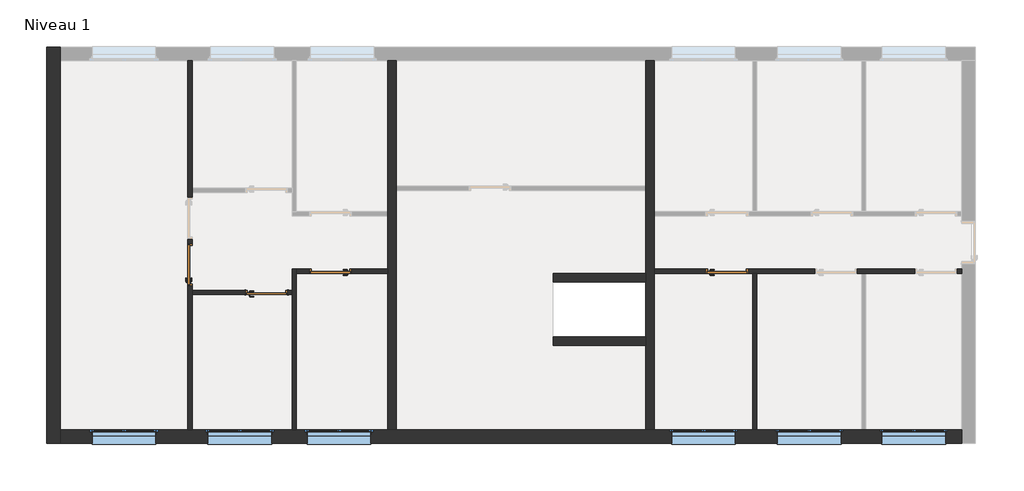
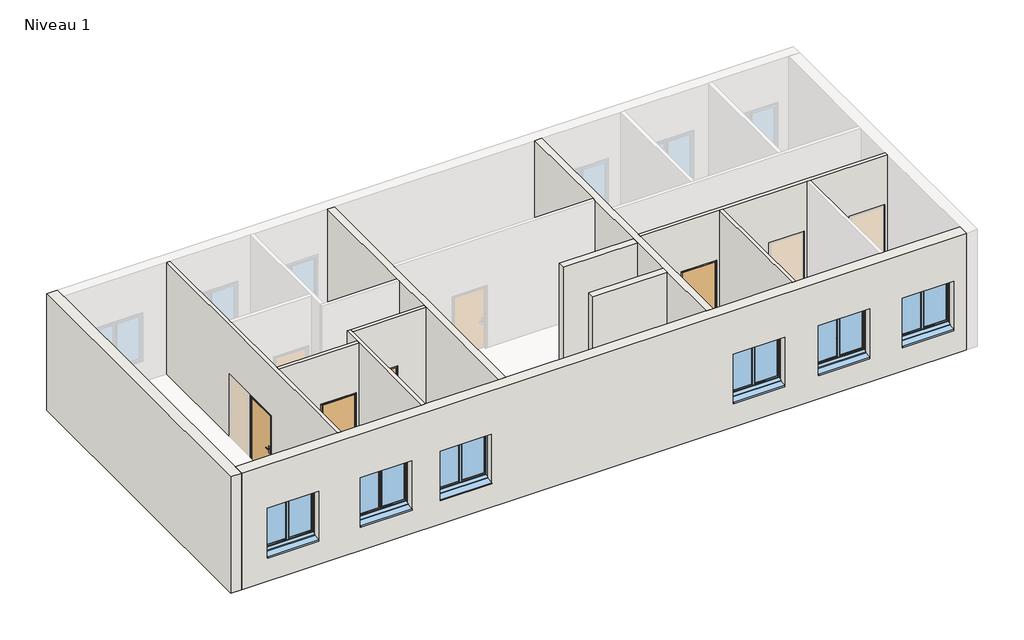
# One storey, part 1 of 2: 12 walls, 6 windows, 4 doors.
"""IFC4 building model written with IfcOpenShell, lengths in millimetres."""

from ifc_helpers import new_model, si_unit, frame, origin, place, context, project, spatial, polyline, outline, extrude, faceted_brep, transform, mapped, element, save
from components import int_simple_pp_0_93m_x_2_04m_4f2bf630, int_simple_pp_0_93m_x_2_04m_68d1b237, window_4dd6e4df

model = new_model("IFC4")

# Units and contexts
model_context = context("Model", 3, world=origin())
ifc_project = project(units=[si_unit("LENGTHUNIT", "METRE", prefix="MILLI")], contexts=[model_context])

# Site, building, storey
site = spatial("IfcSite", under=ifc_project)
building = spatial("IfcBuilding", under=site)
storey = spatial("IfcBuildingStorey", under=building, Name="Niveau 1", Elevation=3600.0)

# Doors
placement = place(None, origin())
int_simple_pp_0_93m_x_2_04m_shape = int_simple_pp_0_93m_x_2_04m_4f2bf630(model_context)
element("IfcDoor", 1, ObjectType="Int. Simple : PP (0.93m x 2.04m)", at=placement, inside=storey, context=model_context, shape_type="MappedRepresentation", body=[
    mapped(int_simple_pp_0_93m_x_2_04m_shape, transform((1686.759299, -1075.3060551, 3600.0), x_axis=(1.0, 0.0, 0.0), y_axis=(0.0, 1.0, 0.0), z_axis=(0.0, 0.0, 1.0))),
])
element("IfcDoor", 2, ObjectType="Int. Simple : PP (0.93m x 2.04m)", at=placement, inside=storey, context=model_context, shape_type="MappedRepresentation", body=[
    mapped(int_simple_pp_0_93m_x_2_04m_shape, transform((-9133.240701, -1575.3060551, 3600.0), x_axis=(1.0, 0.0, 0.0), y_axis=(0.0, 1.0, 0.0), z_axis=(0.0, 0.0, 1.0))),
])
int_simple_pp_0_93m_x_2_04m_2_shape = int_simple_pp_0_93m_x_2_04m_68d1b237(model_context)
element("IfcDoor", 3, ObjectType="Int. Simple : PP (0.93m x 2.04m)", at=placement, inside=storey, context=model_context, shape_type="MappedRepresentation", body=[
    mapped(int_simple_pp_0_93m_x_2_04m_2_shape, transform((-7703.240701, -1075.3060551, 3600.0), x_axis=(-1.0, 0.0, 0.0), y_axis=(0.0, -1.0, 0.0), z_axis=(0.0, 0.0, 1.0))),
])
element("IfcDoor", 4, ObjectType="Int. Simple : PP (0.93m x 2.04m)", at=placement, inside=storey, context=model_context, shape_type="MappedRepresentation", body=[
    mapped(int_simple_pp_0_93m_x_2_04m_2_shape, transform((-10968.240701, -890.3060551, 3600.0), x_axis=(0.0, 1.0, 0.0), y_axis=(-1.0, 0.0, 0.0), z_axis=(0.0, 0.0, 1.0))),
])

# Walls
element("IfcWall", 5, ObjectType="Int. plâtre 100 mm", at=placement, inside=storey, context=model_context, shape_type="Brep", body=[
    faceted_brep([(7161.759299, -1125.3060551, 7200.0), (4911.759299, -1125.3060551, 7200.0), (4811.759299, -1125.3060551, 7200.0), (2351.759299, -1125.3060551, 7200.0), (2251.759299, -1125.3060551, 7200.0), (-58.240701, -1125.3060551, 7200.0), (-58.240701, -1125.3060551, 3600.0), (1151.759299, -1125.3060551, 3600.0), (1151.759299, -1125.3060551, 5675.0), (2151.759299, -1125.3060551, 5675.0), (2151.759299, -1125.3060551, 3600.0), (2251.759299, -1125.3060551, 3600.0), (2351.759299, -1125.3060551, 3600.0), (3711.759299, -1125.3060551, 3600.0), (3711.759299, -1125.3060551, 5675.0), (4711.759299, -1125.3060551, 5675.0), (4711.759299, -1125.3060551, 3600.0), (4811.759299, -1125.3060551, 3600.0), (4911.759299, -1125.3060551, 3600.0), (6061.759299, -1125.3060551, 3600.0), (6061.759299, -1125.3060551, 5675.0), (7061.759299, -1125.3060551, 5675.0), (7061.759299, -1125.3060551, 3600.0), (7161.759299, -1125.3060551, 3600.0), (-58.240701, -1025.3060551, 7200.0), (7161.759299, -1025.3060551, 7200.0), (7161.759299, -1025.3060551, 3600.0), (7061.759299, -1025.3060551, 3600.0), (7061.759299, -1025.3060551, 5675.0), (6061.759299, -1025.3060551, 5675.0), (6061.759299, -1025.3060551, 3600.0), (4711.759299, -1025.3060551, 3600.0), (4711.759299, -1025.3060551, 5675.0), (3711.759299, -1025.3060551, 5675.0), (3711.759299, -1025.3060551, 3600.0), (2151.759299, -1025.3060551, 3600.0), (2151.759299, -1025.3060551, 5675.0), (1151.759299, -1025.3060551, 5675.0), (1151.759299, -1025.3060551, 3600.0), (-58.240701, -1025.3060551, 3600.0)], [[[0, 1, 2, 3, 4, 5, 6, 7, 8, 9, 10, 11, 12, 13, 14, 15, 16, 17, 18, 19, 20, 21, 22, 23]], [[24, 25, 26, 27, 28, 29, 30, 31, 32, 33, 34, 35, 36, 37, 38, 39]], [[6, 39, 38, 7]], [[26, 23, 22, 27]], [[10, 35, 34, 13, 12, 11]], [[16, 31, 30, 19, 18, 17]], [[5, 4, 3, 2, 1, 0, 25, 24]], [[0, 23, 26, 25]], [[6, 5, 24, 39]], [[9, 36, 35, 10]], [[36, 9, 8, 37]], [[37, 8, 7, 38]], [[15, 32, 31, 16]], [[32, 15, 14, 33]], [[33, 14, 13, 34]], [[21, 28, 27, 22]], [[28, 21, 20, 29]], [[29, 20, 19, 30]]]),
])
element("IfcWall", 6, ObjectType="Int. plâtre 100 mm", at=placement, inside=storey, context=model_context, shape_type="SweptSolid", body=[
    extrude(outline(polyline([(2351.759299, -1125.3060551), (2351.759299, -4805.3060551), (2251.759299, -4805.3060551), (2251.759299, -1125.3060551), (2351.759299, -1125.3060551)])), frame((0.0, 0.0, 3600.0), z_axis=(0.0, 0.0, 1.0), x_axis=(1.0, 0.0, 0.0)), (0.0, 0.0, 1.0), 3600.0),
])
element("IfcWall", 7, ObjectType="Int. plâtre 100 mm", at=placement, inside=storey, context=model_context, shape_type="Brep", body=[
    faceted_brep([(-10918.240701, 3874.6939449, 7200.0), (-10918.240701, 874.6939449, 7200.0), (-10918.240701, 774.6939449, 7200.0), (-10918.240701, -1525.3060551, 7200.0), (-10918.240701, -1625.3060551, 7200.0), (-10918.240701, -4805.3060551, 7200.0), (-10918.240701, -4805.3060551, 3600.0), (-10918.240701, -1625.3060551, 3600.0), (-10918.240701, -1525.3060551, 3600.0), (-10918.240701, -1425.3060551, 3600.0), (-10918.240701, -1425.3060551, 5675.0), (-10918.240701, -425.3060551, 5675.0), (-10918.240701, -425.3060551, 3600.0), (-10918.240701, -325.3060551, 3600.0), (-10918.240701, -325.3060551, 5675.0), (-10918.240701, 674.6939449, 5675.0), (-10918.240701, 674.6939449, 3600.0), (-10918.240701, 774.6939449, 3600.0), (-10918.240701, 874.6939449, 3600.0), (-10918.240701, 3874.6939449, 3600.0), (-11018.240701, -4805.3060551, 7200.0), (-11018.240701, 3874.6939449, 7200.0), (-11018.240701, 3874.6939449, 3600.0), (-11018.240701, 674.6939449, 3600.0), (-11018.240701, 674.6939449, 5675.0), (-11018.240701, -325.3060551, 5675.0), (-11018.240701, -325.3060551, 3600.0), (-11018.240701, -425.3060551, 3600.0), (-11018.240701, -425.3060551, 5675.0), (-11018.240701, -1425.3060551, 5675.0), (-11018.240701, -1425.3060551, 3600.0), (-11018.240701, -4805.3060551, 3600.0)], [[[0, 1, 2, 3, 4, 5, 6, 7, 8, 9, 10, 11, 12, 13, 14, 15, 16, 17, 18, 19]], [[20, 21, 22, 23, 24, 25, 26, 27, 28, 29, 30, 31]], [[6, 31, 30, 9, 8, 7]], [[22, 19, 18, 17, 16, 23]], [[12, 27, 26, 13]], [[5, 4, 3, 2, 1, 0, 21, 20]], [[0, 19, 22, 21]], [[6, 5, 20, 31]], [[11, 28, 27, 12]], [[28, 11, 10, 29]], [[29, 10, 9, 30]], [[25, 14, 13, 26]], [[14, 25, 24, 15]], [[15, 24, 23, 16]]]),
])
element("IfcWall", 8, ObjectType="Int. plâtre 100 mm", at=placement, inside=storey, context=model_context, shape_type="Brep", body=[
    faceted_brep([(-8468.240701, -4805.3060551, 3600.0), (-8468.240701, -1125.3060551, 3600.0), (-8468.240701, -1025.3060551, 3600.0), (-8468.240701, -1025.3060551, 7200.0), (-8468.240701, -1125.3060551, 7200.0), (-8468.240701, -4805.3060551, 7200.0), (-8568.240701, -4805.3060551, 3600.0), (-8568.240701, -4805.3060551, 7200.0), (-8568.240701, -1625.3060551, 7200.0), (-8568.240701, -1525.3060551, 7200.0), (-8568.240701, -1025.3060551, 7200.0), (-8568.240701, -1025.3060551, 3600.0), (-8568.240701, -1525.3060551, 3600.0), (-8568.240701, -1625.3060551, 3600.0)], [[[0, 1, 2, 3, 4, 5]], [[6, 7, 8, 9, 10, 11, 12, 13]], [[2, 1, 0, 6, 13, 12, 11]], [[5, 4, 3, 10, 9, 8, 7]], [[0, 5, 7, 6]], [[3, 2, 11, 10]]]),
])
element("IfcWall", 9, ObjectType="Int. plâtre 100 mm", at=placement, inside=storey, context=model_context, shape_type="SweptSolid", body=[
    extrude(outline(polyline([(7200.0, -6318.240701), (7200.0, -8468.240701), (3600.0, -8468.240701), (3600.0, -8168.240701), (5675.0, -8168.240701), (5675.0, -7168.240701), (3600.0, -7168.240701), (3600.0, -6318.240701), (7200.0, -6318.240701)])), frame((0.0, -1125.3060551, 0.0), z_axis=(0.0, 1.0, 0.0), x_axis=(0.0, 0.0, 1.0)), (0.0, 0.0, 1.0), 100.0),
])
element("IfcWall", 10, ObjectType="Int. plâtre 100 mm", at=placement, inside=storey, context=model_context, shape_type="SweptSolid", body=[
    extrude(outline(polyline([(7200.0, -8568.240701), (7200.0, -10918.240701), (3600.0, -10918.240701), (3600.0, -9668.240701), (5675.0, -9668.240701), (5675.0, -8668.240701), (3600.0, -8668.240701), (3600.0, -8568.240701), (7200.0, -8568.240701)])), frame((0.0, -1625.3060551, 0.0), z_axis=(0.0, 1.0, 0.0), x_axis=(0.0, 0.0, 1.0)), (0.0, 0.0, 1.0), 100.0),
])
element("IfcWall", 11, ObjectType="Ext. Voile BA 20", at=placement, inside=storey, context=model_context, shape_type="Brep", body=[
    faceted_brep([(-6318.240701, 3874.6939449, 3600.0), (-6318.240701, 324.6939449, 3600.0), (-6318.240701, 224.6939449, 3600.0), (-6318.240701, -1025.3060551, 3600.0), (-6318.240701, -1125.3060551, 3600.0), (-6318.240701, -4805.3060551, 3600.0), (-6318.240701, -4805.3060551, 7200.0), (-6318.240701, -1125.3060551, 7200.0), (-6318.240701, -1025.3060551, 7200.0), (-6318.240701, 224.6939449, 7200.0), (-6318.240701, 324.6939449, 7200.0), (-6318.240701, 3874.6939449, 7200.0), (-6118.240701, 3874.6939449, 3600.0), (-6118.240701, 3874.6939449, 7200.0), (-6118.240701, 924.6939449, 7200.0), (-6118.240701, 824.6939449, 7200.0), (-6118.240701, -4805.3060551, 7200.0), (-6118.240701, -4805.3060551, 3600.0), (-6118.240701, 824.6939449, 3600.0), (-6118.240701, 924.6939449, 3600.0)], [[[0, 1, 2, 3, 4, 5, 6, 7, 8, 9, 10, 11]], [[12, 13, 14, 15, 16, 17, 18, 19]], [[5, 4, 3, 2, 1, 0, 12, 19, 18, 17]], [[11, 10, 9, 8, 7, 6, 16, 15, 14, 13]], [[0, 11, 13, 12]], [[6, 5, 17, 16]]]),
])
element("IfcWall", 12, ObjectType="Ext. Voile BA 20", at=placement, inside=storey, context=model_context, shape_type="Brep", body=[
    faceted_brep([(-258.240701, 3874.6939449, 3600.0), (-258.240701, 924.6939449, 3600.0), (-258.240701, 824.6939449, 3600.0), (-258.240701, -1129.6604406, 3600.0), (-258.240701, -1329.6604406, 3600.0), (-258.240701, -2625.3060551, 3600.0), (-258.240701, -2825.3060551, 3600.0), (-258.240701, -4805.3060551, 3600.0), (-258.240701, -4805.3060551, 7200.0), (-258.240701, -2825.3060551, 7200.0), (-258.240701, -2625.3060551, 7200.0), (-258.240701, -1329.6604406, 7200.0), (-258.240701, -1129.6604406, 7200.0), (-258.240701, 824.6939449, 7200.0), (-258.240701, 924.6939449, 7200.0), (-258.240701, 3874.6939449, 7200.0), (-58.240701, 3874.6939449, 3600.0), (-58.240701, 3874.6939449, 7200.0), (-58.240701, 324.6939449, 7200.0), (-58.240701, 224.6939449, 7200.0), (-58.240701, -1025.3060551, 7200.0), (-58.240701, -1125.3060551, 7200.0), (-58.240701, -4805.3060551, 7200.0), (-58.240701, -4805.3060551, 3600.0), (-58.240701, -1125.3060551, 3600.0), (-58.240701, -1025.3060551, 3600.0), (-58.240701, 224.6939449, 3600.0), (-58.240701, 324.6939449, 3600.0)], [[[0, 1, 2, 3, 4, 5, 6, 7, 8, 9, 10, 11, 12, 13, 14, 15]], [[16, 17, 18, 19, 20, 21, 22, 23, 24, 25, 26, 27]], [[7, 6, 5, 4, 3, 2, 1, 0, 16, 27, 26, 25, 24, 23]], [[15, 14, 13, 12, 11, 10, 9, 8, 22, 21, 20, 19, 18, 17]], [[0, 15, 17, 16]], [[8, 7, 23, 22]]]),
])
element("IfcWall", 13, ObjectType="Ext. Voile BA 20", at=placement, inside=storey, context=model_context, shape_type="SweptSolid", body=[
    extrude(outline(polyline([(-258.240701, -1329.6604406), (-2430.4682755, -1329.6604406), (-2430.4682755, -1129.6604406), (-258.240701, -1129.6604406), (-258.240701, -1329.6604406)])), frame((0.0, 0.0, 3600.0), z_axis=(0.0, 0.0, 1.0), x_axis=(1.0, 0.0, 0.0)), (0.0, 0.0, 1.0), 3600.0),
])
element("IfcWall", 14, ObjectType="Ext. Voile BA 20", at=placement, inside=storey, context=model_context, shape_type="SweptSolid", body=[
    extrude(outline(polyline([(-258.240701, -2825.3060551), (-2430.4682755, -2825.3060551), (-2430.4682755, -2625.3060551), (-258.240701, -2625.3060551), (-258.240701, -2825.3060551)])), frame((0.0, 0.0, 3600.0), z_axis=(0.0, 0.0, 1.0), x_axis=(1.0, 0.0, 0.0)), (0.0, 0.0, 1.0), 3600.0),
])
element("IfcWall", 15, ObjectType="Ext. Voile BA 20 + Isolant 10", at=placement, inside=storey, context=model_context, shape_type="Brep", body=[
    faceted_brep([(-14018.240701, -5125.3060551, 3600.0), (-14018.240701, -4805.3060551, 3600.0), (-14018.240701, 3874.6939449, 3600.0), (-14018.240701, 4194.6939449, 3600.0), (-14018.240701, 4194.6939449, 7200.0), (-14018.240701, 3874.6939449, 7200.0), (-14018.240701, -4805.3060551, 7200.0), (-14018.240701, -5125.3060551, 7200.0), (-14338.240701, -5125.3060551, 3600.0), (-14338.240701, -5125.3060551, 7200.0), (-14338.240701, 4194.6939449, 7200.0), (-14338.240701, 4194.6939449, 3600.0)], [[[0, 1, 2, 3, 4, 5, 6, 7]], [[8, 9, 10, 11]], [[3, 2, 1, 0, 8, 11]], [[7, 6, 5, 4, 10, 9]], [[4, 3, 11, 10]], [[0, 7, 9, 8]]]),
])
element("IfcWall", 16, ObjectType="Ext. Voile BA 20 + Isolant 10", at=placement, inside=storey, context=model_context, shape_type="Brep", body=[
    faceted_brep([(7161.759299, -4805.3060551, 3600.0), (4911.759299, -4805.3060551, 3600.0), (4811.759299, -4805.3060551, 3600.0), (2351.759299, -4805.3060551, 3600.0), (2251.759299, -4805.3060551, 3600.0), (-58.240701, -4805.3060551, 3600.0), (-258.240701, -4805.3060551, 3600.0), (-6118.240701, -4805.3060551, 3600.0), (-6318.240701, -4805.3060551, 3600.0), (-8468.240701, -4805.3060551, 3600.0), (-8568.240701, -4805.3060551, 3600.0), (-10918.240701, -4805.3060551, 3600.0), (-11018.240701, -4805.3060551, 3600.0), (-14018.240701, -4805.3060551, 3600.0), (-14018.240701, -4805.3060551, 7200.0), (-11018.240701, -4805.3060551, 7200.0), (-10918.240701, -4805.3060551, 7200.0), (-8568.240701, -4805.3060551, 7200.0), (-8468.240701, -4805.3060551, 7200.0), (-6318.240701, -4805.3060551, 7200.0), (-6118.240701, -4805.3060551, 7200.0), (-258.240701, -4805.3060551, 7200.0), (-58.240701, -4805.3060551, 7200.0), (2251.759299, -4805.3060551, 7200.0), (2351.759299, -4805.3060551, 7200.0), (4811.759299, -4805.3060551, 7200.0), (4911.759299, -4805.3060551, 7200.0), (7161.759299, -4805.3060551, 7200.0), (296.759299, -4805.3060551, 4400.0), (1896.759299, -4805.3060551, 4400.0), (1896.759299, -4805.3060551, 5900.0), (296.759299, -4805.3060551, 5900.0), (2781.759299, -4805.3060551, 4400.0), (4381.759299, -4805.3060551, 4400.0), (4381.759299, -4805.3060551, 5900.0), (2781.759299, -4805.3060551, 5900.0), (5236.759299, -4805.3060551, 4400.0), (6836.759299, -4805.3060551, 4400.0), (6836.759299, -4805.3060551, 5900.0), (5236.759299, -4805.3060551, 5900.0), (-13318.240701, -4805.3060551, 4400.0), (-11718.240701, -4805.3060551, 4400.0), (-11718.240701, -4805.3060551, 5900.0), (-13318.240701, -4805.3060551, 5900.0), (-8268.240701, -4805.3060551, 4400.0), (-6668.240701, -4805.3060551, 4400.0), (-6668.240701, -4805.3060551, 5900.0), (-8268.240701, -4805.3060551, 5900.0), (-10598.240701, -4805.3060551, 4400.0), (-8998.240701, -4805.3060551, 4400.0), (-8998.240701, -4805.3060551, 5900.0), (-10598.240701, -4805.3060551, 5900.0), (7161.759299, -5125.3060551, 3600.0), (7161.759299, -5125.3060551, 7200.0), (-14018.240701, -5125.3060551, 7200.0), (-14018.240701, -5125.3060551, 3600.0), (1846.759299, -5125.3060551, 5850.0), (1846.759299, -5125.3060551, 4320.0), (346.759299, -5125.3060551, 4320.0), (346.759299, -5125.3060551, 5850.0), (4331.759299, -5125.3060551, 5850.0), (4331.759299, -5125.3060551, 4320.0), (2831.759299, -5125.3060551, 4320.0), (2831.759299, -5125.3060551, 5850.0), (6786.759299, -5125.3060551, 5850.0), (6786.759299, -5125.3060551, 4320.0), (5286.759299, -5125.3060551, 4320.0), (5286.759299, -5125.3060551, 5850.0), (-11768.240701, -5125.3060551, 5850.0), (-11768.240701, -5125.3060551, 4320.0), (-13268.240701, -5125.3060551, 4320.0), (-13268.240701, -5125.3060551, 5850.0), (-6718.240701, -5125.3060551, 5850.0), (-6718.240701, -5125.3060551, 4320.0), (-8218.240701, -5125.3060551, 4320.0), (-8218.240701, -5125.3060551, 5850.0), (-9048.240701, -5125.3060551, 5850.0), (-9048.240701, -5125.3060551, 4320.0), (-10548.240701, -5125.3060551, 4320.0), (-10548.240701, -5125.3060551, 5850.0), (1846.759299, -4885.3060551, 4400.0), (1846.759299, -4885.3060551, 4320.0), (1846.759299, -4905.3060551, 5850.0), (1846.759299, -4905.3060551, 4400.0), (346.759299, -4885.3060551, 4320.0), (346.759299, -4885.3060551, 4400.0), (346.759299, -4905.3060551, 4400.0), (346.759299, -4905.3060551, 5850.0), (1856.759299, -4905.3060551, 4400.0), (1856.759299, -4855.3060551, 4400.0), (1896.759299, -4855.3060551, 4400.0), (296.759299, -4855.3060551, 4400.0), (336.759299, -4855.3060551, 4400.0), (336.759299, -4905.3060551, 4400.0), (1896.759299, -4855.3060551, 5900.0), (1856.759299, -4855.3060551, 5860.0), (336.759299, -4855.3060551, 5860.0), (296.759299, -4855.3060551, 5900.0), (1856.759299, -4905.3060551, 5860.0), (336.759299, -4905.3060551, 5860.0), (4331.759299, -4885.3060551, 4400.0), (4331.759299, -4885.3060551, 4320.0), (4331.759299, -4905.3060551, 5850.0), (4331.759299, -4905.3060551, 4400.0), (2831.759299, -4885.3060551, 4320.0), (2831.759299, -4885.3060551, 4400.0), (2831.759299, -4905.3060551, 4400.0), (2831.759299, -4905.3060551, 5850.0), (4341.759299, -4905.3060551, 4400.0), (4341.759299, -4855.3060551, 4400.0), (4381.759299, -4855.3060551, 4400.0), (2781.759299, -4855.3060551, 4400.0), (2821.759299, -4855.3060551, 4400.0), (2821.759299, -4905.3060551, 4400.0), (4381.759299, -4855.3060551, 5900.0), (4341.759299, -4855.3060551, 5860.0), (2821.759299, -4855.3060551, 5860.0), (2781.759299, -4855.3060551, 5900.0), (4341.759299, -4905.3060551, 5860.0), (2821.759299, -4905.3060551, 5860.0), (6786.759299, -4885.3060551, 4400.0), (6786.759299, -4885.3060551, 4320.0), (6786.759299, -4905.3060551, 5850.0), (6786.759299, -4905.3060551, 4400.0), (5286.759299, -4885.3060551, 4320.0), (5286.759299, -4885.3060551, 4400.0), (5286.759299, -4905.3060551, 4400.0), (5286.759299, -4905.3060551, 5850.0), (6796.759299, -4905.3060551, 4400.0), (6796.759299, -4855.3060551, 4400.0), (6836.759299, -4855.3060551, 4400.0), (5236.759299, -4855.3060551, 4400.0), (5276.759299, -4855.3060551, 4400.0), (5276.759299, -4905.3060551, 4400.0), (6836.759299, -4855.3060551, 5900.0), (6796.759299, -4855.3060551, 5860.0), (5276.759299, -4855.3060551, 5860.0), (5236.759299, -4855.3060551, 5900.0), (6796.759299, -4905.3060551, 5860.0), (5276.759299, -4905.3060551, 5860.0), (-11768.240701, -4885.3060551, 4400.0), (-11768.240701, -4885.3060551, 4320.0), (-11768.240701, -4905.3060551, 5850.0), (-11768.240701, -4905.3060551, 4400.0), (-13268.240701, -4885.3060551, 4320.0), (-13268.240701, -4885.3060551, 4400.0), (-13268.240701, -4905.3060551, 4400.0), (-13268.240701, -4905.3060551, 5850.0), (-11758.240701, -4905.3060551, 4400.0), (-11758.240701, -4855.3060551, 4400.0), (-11718.240701, -4855.3060551, 4400.0), (-13318.240701, -4855.3060551, 4400.0), (-13278.240701, -4855.3060551, 4400.0), (-13278.240701, -4905.3060551, 4400.0), (-11718.240701, -4855.3060551, 5900.0), (-11758.240701, -4855.3060551, 5860.0), (-13278.240701, -4855.3060551, 5860.0), (-13318.240701, -4855.3060551, 5900.0), (-11758.240701, -4905.3060551, 5860.0), (-13278.240701, -4905.3060551, 5860.0), (-6718.240701, -4885.3060551, 4400.0), (-6718.240701, -4885.3060551, 4320.0), (-6718.240701, -4905.3060551, 5850.0), (-6718.240701, -4905.3060551, 4400.0), (-8218.240701, -4885.3060551, 4320.0), (-8218.240701, -4885.3060551, 4400.0), (-8218.240701, -4905.3060551, 4400.0), (-8218.240701, -4905.3060551, 5850.0), (-6708.240701, -4905.3060551, 4400.0), (-6708.240701, -4855.3060551, 4400.0), (-6668.240701, -4855.3060551, 4400.0), (-8268.240701, -4855.3060551, 4400.0), (-8228.240701, -4855.3060551, 4400.0), (-8228.240701, -4905.3060551, 4400.0), (-6668.240701, -4855.3060551, 5900.0), (-6708.240701, -4855.3060551, 5860.0), (-8228.240701, -4855.3060551, 5860.0), (-8268.240701, -4855.3060551, 5900.0), (-6708.240701, -4905.3060551, 5860.0), (-8228.240701, -4905.3060551, 5860.0), (-9048.240701, -4885.3060551, 4400.0), (-9048.240701, -4885.3060551, 4320.0), (-9048.240701, -4905.3060551, 5850.0), (-9048.240701, -4905.3060551, 4400.0), (-10548.240701, -4885.3060551, 4320.0), (-10548.240701, -4885.3060551, 4400.0), (-10548.240701, -4905.3060551, 4400.0), (-10548.240701, -4905.3060551, 5850.0), (-9038.240701, -4905.3060551, 4400.0), (-9038.240701, -4855.3060551, 4400.0), (-8998.240701, -4855.3060551, 4400.0), (-10598.240701, -4855.3060551, 4400.0), (-10558.240701, -4855.3060551, 4400.0), (-10558.240701, -4905.3060551, 4400.0), (-8998.240701, -4855.3060551, 5900.0), (-9038.240701, -4855.3060551, 5860.0), (-10558.240701, -4855.3060551, 5860.0), (-10598.240701, -4855.3060551, 5900.0), (-9038.240701, -4905.3060551, 5860.0), (-10558.240701, -4905.3060551, 5860.0)], [[[0, 1, 2, 3, 4, 5, 6, 7, 8, 9, 10, 11, 12, 13, 14, 15, 16, 17, 18, 19, 20, 21, 22, 23, 24, 25, 26, 27], [28, 29, 30, 31], [32, 33, 34, 35], [36, 37, 38, 39], [40, 41, 42, 43], [44, 45, 46, 47], [48, 49, 50, 51]], [[52, 53, 54, 55], [56, 57, 58, 59], [60, 61, 62, 63], [64, 65, 66, 67], [68, 69, 70, 71], [72, 73, 74, 75], [76, 77, 78, 79]], [[13, 12, 11, 10, 9, 8, 7, 6, 5, 4, 3, 2, 1, 0, 52, 55]], [[27, 26, 25, 24, 23, 22, 21, 20, 19, 18, 17, 16, 15, 14, 54, 53]], [[14, 13, 55, 54]], [[0, 27, 53, 52]], [[80, 81, 57, 56, 82, 83]], [[84, 85, 86, 87, 59, 58]], [[81, 84, 58, 57]], [[81, 80, 85, 84]], [[56, 59, 87, 82]], [[85, 80, 83, 88, 89, 90, 29, 28, 91, 92, 93, 86]], [[29, 90, 94, 30]], [[90, 89, 95, 96, 92, 91, 97, 94]], [[89, 88, 98, 95]], [[88, 83, 82, 87, 86, 93, 99, 98]], [[30, 94, 97, 31]], [[96, 95, 98, 99]], [[97, 91, 28, 31]], [[92, 96, 99, 93]], [[100, 101, 61, 60, 102, 103]], [[104, 105, 106, 107, 63, 62]], [[101, 104, 62, 61]], [[101, 100, 105, 104]], [[60, 63, 107, 102]], [[105, 100, 103, 108, 109, 110, 33, 32, 111, 112, 113, 106]], [[33, 110, 114, 34]], [[110, 109, 115, 116, 112, 111, 117, 114]], [[109, 108, 118, 115]], [[108, 103, 102, 107, 106, 113, 119, 118]], [[34, 114, 117, 35]], [[116, 115, 118, 119]], [[117, 111, 32, 35]], [[112, 116, 119, 113]], [[120, 121, 65, 64, 122, 123]], [[124, 125, 126, 127, 67, 66]], [[121, 124, 66, 65]], [[121, 120, 125, 124]], [[64, 67, 127, 122]], [[125, 120, 123, 128, 129, 130, 37, 36, 131, 132, 133, 126]], [[37, 130, 134, 38]], [[130, 129, 135, 136, 132, 131, 137, 134]], [[129, 128, 138, 135]], [[128, 123, 122, 127, 126, 133, 139, 138]], [[38, 134, 137, 39]], [[136, 135, 138, 139]], [[137, 131, 36, 39]], [[132, 136, 139, 133]], [[140, 141, 69, 68, 142, 143]], [[144, 145, 146, 147, 71, 70]], [[141, 144, 70, 69]], [[141, 140, 145, 144]], [[68, 71, 147, 142]], [[145, 140, 143, 148, 149, 150, 41, 40, 151, 152, 153, 146]], [[41, 150, 154, 42]], [[150, 149, 155, 156, 152, 151, 157, 154]], [[149, 148, 158, 155]], [[148, 143, 142, 147, 146, 153, 159, 158]], [[42, 154, 157, 43]], [[156, 155, 158, 159]], [[157, 151, 40, 43]], [[152, 156, 159, 153]], [[160, 161, 73, 72, 162, 163]], [[164, 165, 166, 167, 75, 74]], [[161, 164, 74, 73]], [[161, 160, 165, 164]], [[72, 75, 167, 162]], [[165, 160, 163, 168, 169, 170, 45, 44, 171, 172, 173, 166]], [[45, 170, 174, 46]], [[170, 169, 175, 176, 172, 171, 177, 174]], [[169, 168, 178, 175]], [[168, 163, 162, 167, 166, 173, 179, 178]], [[46, 174, 177, 47]], [[176, 175, 178, 179]], [[177, 171, 44, 47]], [[172, 176, 179, 173]], [[180, 181, 77, 76, 182, 183]], [[184, 185, 186, 187, 79, 78]], [[181, 184, 78, 77]], [[181, 180, 185, 184]], [[76, 79, 187, 182]], [[185, 180, 183, 188, 189, 190, 49, 48, 191, 192, 193, 186]], [[49, 190, 194, 50]], [[190, 189, 195, 196, 192, 191, 197, 194]], [[189, 188, 198, 195]], [[188, 183, 182, 187, 186, 193, 199, 198]], [[50, 194, 197, 51]], [[196, 195, 198, 199]], [[197, 191, 48, 51]], [[192, 196, 199, 193]]]),
])

# Windows
window_shape = window_4dd6e4df(model_context)
element("IfcWindow", 17, ObjectType="2 Vantaux - Droits : 1.50m x 1.45m - Appui Béton", at=placement, inside=storey, context=model_context, shape_type="MappedRepresentation", body=[
    mapped(window_shape, transform((-9798.240701, -4965.3060551, 3600.0), x_axis=(-1.0, 0.0, 0.0), y_axis=(0.0, -1.0, 0.0), z_axis=(0.0, 0.0, 1.0))),
])
element("IfcWindow", 18, ObjectType="2 Vantaux - Droits : 1.50m x 1.45m - Appui Béton", at=placement, inside=storey, context=model_context, shape_type="MappedRepresentation", body=[
    mapped(window_shape, transform((-7468.240701, -4965.3060551, 3600.0), x_axis=(-1.0, 0.0, 0.0), y_axis=(0.0, -1.0, 0.0), z_axis=(0.0, 0.0, 1.0))),
])
element("IfcWindow", 19, ObjectType="2 Vantaux - Droits : 1.50m x 1.45m - Appui Béton", at=placement, inside=storey, context=model_context, shape_type="MappedRepresentation", body=[
    mapped(window_shape, transform((-12518.240701, -4965.3060551, 3600.0), x_axis=(-1.0, 0.0, 0.0), y_axis=(0.0, -1.0, 0.0), z_axis=(0.0, 0.0, 1.0))),
])
element("IfcWindow", 20, ObjectType="2 Vantaux - Droits : 1.50m x 1.45m - Appui Béton", at=placement, inside=storey, context=model_context, shape_type="MappedRepresentation", body=[
    mapped(window_shape, transform((6036.759299, -4965.3060551, 3600.0), x_axis=(-1.0, 0.0, 0.0), y_axis=(0.0, -1.0, 0.0), z_axis=(0.0, 0.0, 1.0))),
])
element("IfcWindow", 21, ObjectType="2 Vantaux - Droits : 1.50m x 1.45m - Appui Béton", at=placement, inside=storey, context=model_context, shape_type="MappedRepresentation", body=[
    mapped(window_shape, transform((3581.759299, -4965.3060551, 3600.0), x_axis=(-1.0, 0.0, 0.0), y_axis=(0.0, -1.0, 0.0), z_axis=(0.0, 0.0, 1.0))),
])
element("IfcWindow", 22, ObjectType="2 Vantaux - Droits : 1.50m x 1.45m - Appui Béton", at=placement, inside=storey, context=model_context, shape_type="MappedRepresentation", body=[
    mapped(window_shape, transform((1096.759299, -4965.3060551, 3600.0), x_axis=(-1.0, 0.0, 0.0), y_axis=(0.0, -1.0, 0.0), z_axis=(0.0, 0.0, 1.0))),
])

save(model, "model.ifc")
